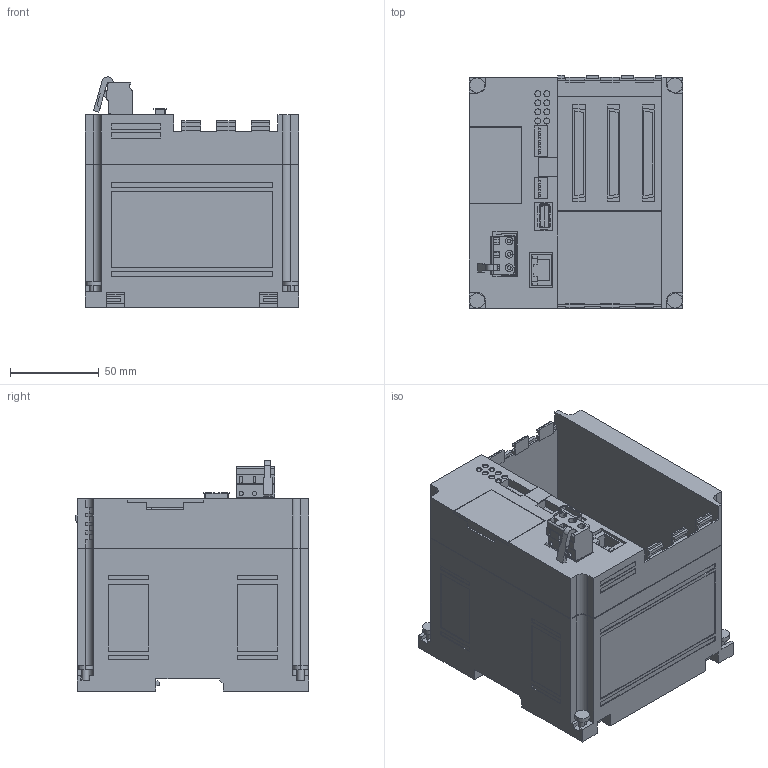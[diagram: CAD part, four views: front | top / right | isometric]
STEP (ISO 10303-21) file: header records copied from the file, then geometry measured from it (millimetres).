
FILE_DESCRIPTION (( 'STEP AP203' ), '1' );
FILE_NAME ('jepmc_mp2310_e.STEP', '2013-03-13T06:12:41', ( '匠エンジニアリング山之内' ), ( 'TAKUMI-Engniaring' ), 'SwSTEP 2.0', 'SolidWorks 2006303', '' );
FILE_SCHEMA (( 'CONFIG_CONTROL_DESIGN' ));
Length unit declared in the file: millimetre
Products named in the file (6): jepmc_mp2310_e_pin; jepmc_mp2310_e; jepmc_mp2310_e_base; jepmc_mp2310_e_cover; jepmc_mp2310_e_connector
Assembly tree (5 placements, depth 3):
  jepmc_mp2310_e
    jepmc_mp2310_e_connector
      jepmc_mp2310_e_pin
      jepmc_mp2310_e_connector
    jepmc_mp2310_e_base
    jepmc_mp2310_e_cover
Bounding box: 120 x 131 x 129.35 mm (x, y, z)
Volume: 863160.4 mm3; surface area: 148255 mm2
Topology: 4 solids, 4 shells, 1052 faces, 2822 edges, 1869 vertices
Faces by surface type: plane 916, cylinder 136
Entity records: 33066 total; most frequent: CARTESIAN_POINT 5752, ORIENTED_EDGE 5644, DIRECTION 5220, EDGE_CURVE 2822, VECTOR 2546, LINE 2546, VERTEX_POINT 1869, AXIS2_PLACEMENT_3D 1337
